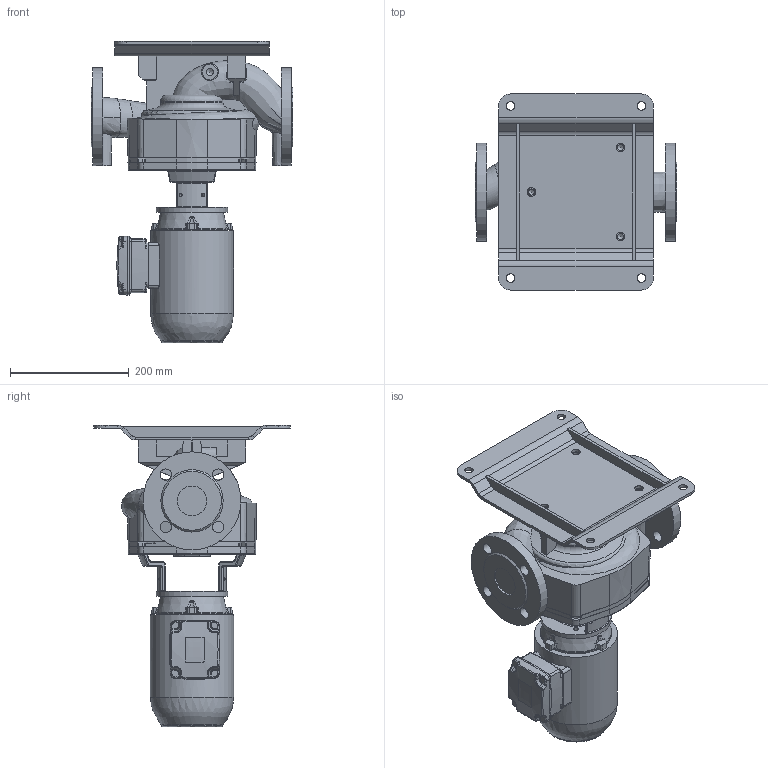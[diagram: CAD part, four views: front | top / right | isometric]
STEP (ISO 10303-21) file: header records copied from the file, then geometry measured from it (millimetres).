
FILE_DESCRIPTION (( 'STEP AP203' ), '1' );
FILE_NAME ('KI50-145_4_0,37kW.STEP', '2024-07-29T10:01:30', ( '' ), ( '' ), 'SwSTEP 2.0', 'SolidWorks 2023', '' );
FILE_SCHEMA (( 'CONFIG_CONTROL_DESIGN' ));
Length unit declared in the file: millimetre
Products named in the file (11): WEG_W21_IEC71_B14_solid; 220542; 230034; 230400; 230496; 230031; 230401; 220545; 230033; 230497; KI50-145_4_0,37kW
Assembly tree (11 placements, depth 3):
  KI50-145_4_0,37kW
    WEG_W21_IEC71_B14_solid
    230401
      230400
    230497
      230496
    220545
      220542
    230034
      230031
      230033  x2
Bounding box: 340 x 330.18 x 507.95 mm (x, y, z)
Volume: 7100621.5 mm3; surface area: 878920.4 mm2
Topology: 6 solids, 7 shells, 865 faces, 2230 edges, 1371 vertices
Faces by surface type: plane 256, cylinder 238, bspline 184, cone 105, torus 68, sphere 14
Full cylindrical faces by diameter (mm): 5 x8, 6 x7, 7 x8, 8 x4, 10.2 x7, 11.8 x4, 14 x4, 14.5 x7, 19 x8, 50 x2, 70 x1, 120 x2, 139.995 x1, 147 x1, 151 x1, 165 x2, 189 x1
Entity records: 44212 total; most frequent: CARTESIAN_POINT 24156, ORIENTED_EDGE 4078, DIRECTION 3666, EDGE_CURVE 2039, AXIS2_PLACEMENT_3D 1474, VERTEX_POINT 1313, EDGE_LOOP 1054, FACE_OUTER_BOUND 927
